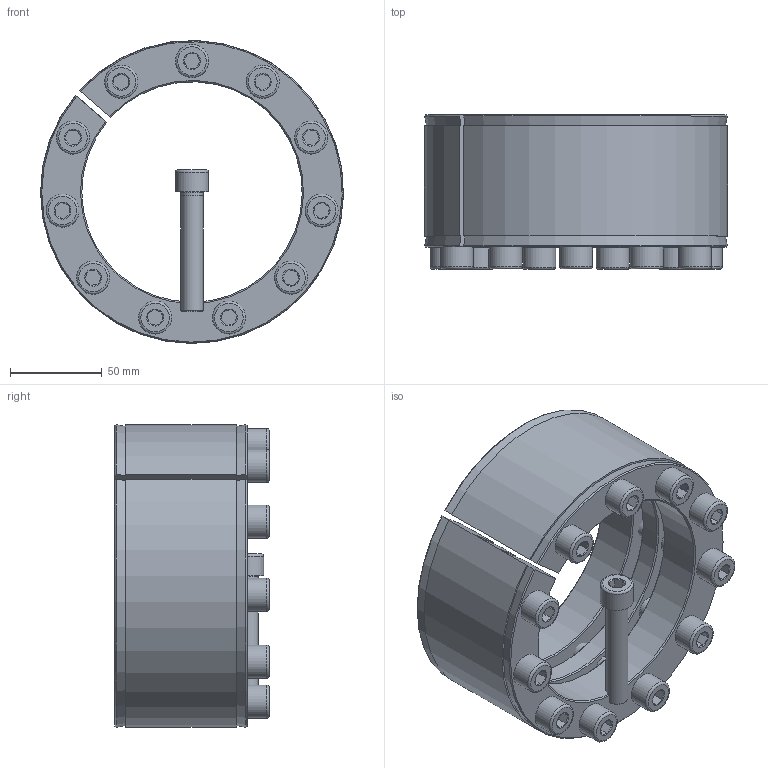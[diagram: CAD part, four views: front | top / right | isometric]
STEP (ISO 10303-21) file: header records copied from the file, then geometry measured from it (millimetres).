
FILE_DESCRIPTION( ( 'Unknown' ), '1' );
FILE_NAME( 'C:/Users/Frank/Eigene Daten/CAD/Solid Edge/KBK Karpstein/KBS Layout Baureihen/KBS 18/KBS - 120 x 165.stp', 'Unknown', ( 'Unknown' ), ( 'Unknown' ), 'XStep 1.0', 'Unknown', ' ' );
FILE_SCHEMA( ( 'automotive_design' ) );
Length unit declared in the file: millimetre
Products named in the file (3): Assem1; ISO EN DIN 4762 M12x65; KBS 18 - 120 x 165
Bounding box: 164.98 x 84 x 164.96 mm (x, y, z)
Volume: 1206244.2 mm3; surface area: 313777.6 mm2
Topology: 14 solids, 14 shells, 440 faces, 996 edges, 588 vertices
Faces by surface type: plane 186, cylinder 122, cone 108, torus 24
Full cylindrical faces by diameter (mm): 10.106 x22, 11 x12, 12 x24, 13 x44, 18 x12
Entity records: 3996 total; most frequent: CARTESIAN_POINT 888, DIRECTION 554, ORIENTED_EDGE 456, AXIS2_PLACEMENT_3D 259, EDGE_CURVE 228, EDGE_LOOP 183, VERTEX_POINT 159, CIRCLE 151
